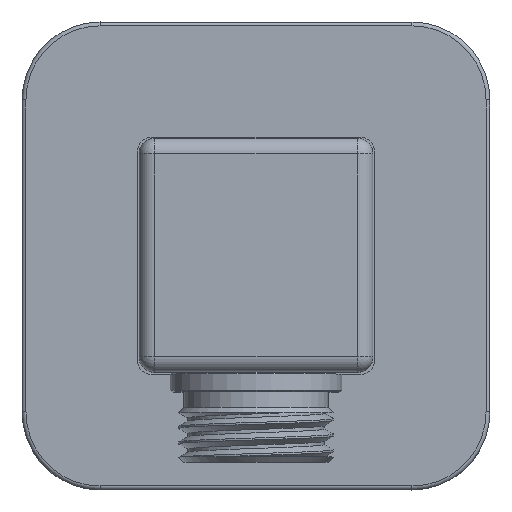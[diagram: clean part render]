
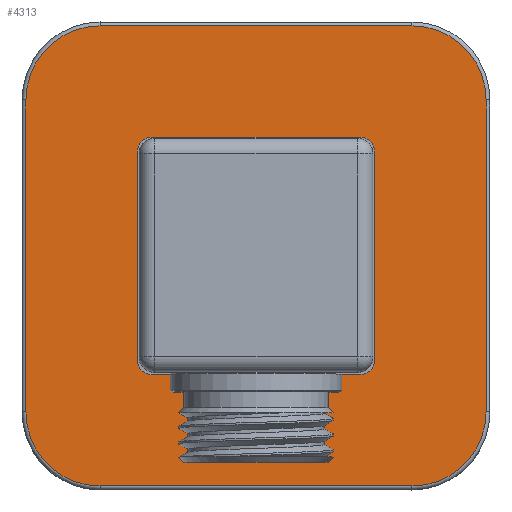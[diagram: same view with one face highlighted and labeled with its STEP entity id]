
A CAD part, top view. The second image highlights one B-rep face of the part: STEP entity #4313.
In plain terms, the highlighted planar face has unit normal (0, 0, 1).
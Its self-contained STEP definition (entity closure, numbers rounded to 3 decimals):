
#137=FACE_BOUND('',#843,.T.);
#280=CIRCLE('',#4704,9.5);
#281=CIRCLE('',#4705,9.5);
#282=CIRCLE('',#4706,9.5);
#283=CIRCLE('',#4707,9.5);
#284=CIRCLE('',#4708,2.);
#285=CIRCLE('',#4709,2.);
#286=CIRCLE('',#4710,2.);
#287=CIRCLE('',#4711,2.);
#578=FACE_OUTER_BOUND('',#842,.T.);
#842=EDGE_LOOP('',(#3281,#3282,#3283,#3284,#3285,#3286,#3287,#3288));
#843=EDGE_LOOP('',(#3289,#3290,#3291,#3292,#3293,#3294,#3295,#3296));
#1099=LINE('',#8091,#1450);
#1100=LINE('',#8095,#1451);
#1101=LINE('',#8099,#1452);
#1102=LINE('',#8103,#1453);
#1103=LINE('',#8107,#1454);
#1104=LINE('',#8111,#1455);
#1105=LINE('',#8115,#1456);
#1106=LINE('',#8119,#1457);
#1450=VECTOR('',#5506,40.);
#1451=VECTOR('',#5509,40.);
#1452=VECTOR('',#5512,40.);
#1453=VECTOR('',#5515,40.);
#1454=VECTOR('',#5518,26.5);
#1455=VECTOR('',#5521,26.5);
#1456=VECTOR('',#5524,26.5);
#1457=VECTOR('',#5527,26.5);
#1883=VERTEX_POINT('',#8089);
#1884=VERTEX_POINT('',#8090);
#1885=VERTEX_POINT('',#8092);
#1886=VERTEX_POINT('',#8094);
#1887=VERTEX_POINT('',#8096);
#1888=VERTEX_POINT('',#8098);
#1889=VERTEX_POINT('',#8100);
#1890=VERTEX_POINT('',#8102);
#1891=VERTEX_POINT('',#8105);
#1892=VERTEX_POINT('',#8106);
#1893=VERTEX_POINT('',#8108);
#1894=VERTEX_POINT('',#8110);
#1895=VERTEX_POINT('',#8112);
#1896=VERTEX_POINT('',#8114);
#1897=VERTEX_POINT('',#8116);
#1898=VERTEX_POINT('',#8118);
#2396=EDGE_CURVE('',#1883,#1884,#1099,.T.);
#2397=EDGE_CURVE('',#1884,#1885,#280,.T.);
#2398=EDGE_CURVE('',#1885,#1886,#1100,.T.);
#2399=EDGE_CURVE('',#1886,#1887,#281,.T.);
#2400=EDGE_CURVE('',#1887,#1888,#1101,.T.);
#2401=EDGE_CURVE('',#1888,#1889,#282,.T.);
#2402=EDGE_CURVE('',#1889,#1890,#1102,.T.);
#2403=EDGE_CURVE('',#1890,#1883,#283,.T.);
#2404=EDGE_CURVE('',#1891,#1892,#1103,.T.);
#2405=EDGE_CURVE('',#1891,#1893,#284,.T.);
#2406=EDGE_CURVE('',#1894,#1893,#1104,.T.);
#2407=EDGE_CURVE('',#1894,#1895,#285,.T.);
#2408=EDGE_CURVE('',#1896,#1895,#1105,.T.);
#2409=EDGE_CURVE('',#1896,#1897,#286,.T.);
#2410=EDGE_CURVE('',#1898,#1897,#1106,.T.);
#2411=EDGE_CURVE('',#1898,#1892,#287,.T.);
#3281=ORIENTED_EDGE('',*,*,#2396,.T.);
#3282=ORIENTED_EDGE('',*,*,#2397,.T.);
#3283=ORIENTED_EDGE('',*,*,#2398,.T.);
#3284=ORIENTED_EDGE('',*,*,#2399,.T.);
#3285=ORIENTED_EDGE('',*,*,#2400,.T.);
#3286=ORIENTED_EDGE('',*,*,#2401,.T.);
#3287=ORIENTED_EDGE('',*,*,#2402,.T.);
#3288=ORIENTED_EDGE('',*,*,#2403,.T.);
#3289=ORIENTED_EDGE('',*,*,#2404,.F.);
#3290=ORIENTED_EDGE('',*,*,#2405,.T.);
#3291=ORIENTED_EDGE('',*,*,#2406,.F.);
#3292=ORIENTED_EDGE('',*,*,#2407,.T.);
#3293=ORIENTED_EDGE('',*,*,#2408,.F.);
#3294=ORIENTED_EDGE('',*,*,#2409,.T.);
#3295=ORIENTED_EDGE('',*,*,#2410,.F.);
#3296=ORIENTED_EDGE('',*,*,#2411,.T.);
#4127=PLANE('',#4703);
#4313=ADVANCED_FACE('',(#578,#137),#4127,.F.);
#4703=AXIS2_PLACEMENT_3D('',#8088,#5504,#5505);
#4704=AXIS2_PLACEMENT_3D('',#8093,#5507,#5508);
#4705=AXIS2_PLACEMENT_3D('',#8097,#5510,#5511);
#4706=AXIS2_PLACEMENT_3D('',#8101,#5513,#5514);
#4707=AXIS2_PLACEMENT_3D('',#8104,#5516,#5517);
#4708=AXIS2_PLACEMENT_3D('',#8109,#5519,#5520);
#4709=AXIS2_PLACEMENT_3D('',#8113,#5522,#5523);
#4710=AXIS2_PLACEMENT_3D('',#8117,#5525,#5526);
#4711=AXIS2_PLACEMENT_3D('',#8120,#5528,#5529);
#5504=DIRECTION('center_axis',(0.,0.,-1.));
#5505=DIRECTION('ref_axis',(1.,0.,0.));
#5506=DIRECTION('',(0.,1.,0.));
#5507=DIRECTION('center_axis',(0.,0.,1.));
#5508=DIRECTION('ref_axis',(1.,0.,0.));
#5509=DIRECTION('',(-1.,0.,0.));
#5510=DIRECTION('center_axis',(0.,0.,1.));
#5511=DIRECTION('ref_axis',(0.,1.,0.));
#5512=DIRECTION('',(0.,-1.,0.));
#5513=DIRECTION('center_axis',(0.,0.,1.));
#5514=DIRECTION('ref_axis',(-1.,0.,0.));
#5515=DIRECTION('',(1.,0.,0.));
#5516=DIRECTION('center_axis',(0.,0.,1.));
#5517=DIRECTION('ref_axis',(0.,-1.,0.));
#5518=DIRECTION('',(1.,0.,0.));
#5519=DIRECTION('center_axis',(0.,0.,-1.));
#5520=DIRECTION('ref_axis',(0.,-1.,0.));
#5521=DIRECTION('',(0.,-1.,0.));
#5522=DIRECTION('center_axis',(0.,0.,-1.));
#5523=DIRECTION('ref_axis',(-1.,0.,0.));
#5524=DIRECTION('',(-1.,0.,0.));
#5525=DIRECTION('center_axis',(0.,0.,-1.));
#5526=DIRECTION('ref_axis',(0.,1.,0.));
#5527=DIRECTION('',(0.,1.,0.));
#5528=DIRECTION('center_axis',(0.,0.,-1.));
#5529=DIRECTION('ref_axis',(1.,0.,0.));
#8088=CARTESIAN_POINT('Origin',(53.85,12.925,30.176));
#8089=CARTESIAN_POINT('',(83.35,-7.075,30.176));
#8090=CARTESIAN_POINT('',(83.35,32.925,30.176));
#8091=CARTESIAN_POINT('',(83.35,-7.075,30.176));
#8092=CARTESIAN_POINT('',(73.85,42.425,30.176));
#8093=CARTESIAN_POINT('Origin',(73.85,32.925,30.176));
#8094=CARTESIAN_POINT('',(33.85,42.425,30.176));
#8095=CARTESIAN_POINT('',(73.85,42.425,30.176));
#8096=CARTESIAN_POINT('',(24.35,32.925,30.176));
#8097=CARTESIAN_POINT('Origin',(33.85,32.925,30.176));
#8098=CARTESIAN_POINT('',(24.35,-7.075,30.176));
#8099=CARTESIAN_POINT('',(24.35,32.925,30.176));
#8100=CARTESIAN_POINT('',(33.85,-16.575,30.176));
#8101=CARTESIAN_POINT('Origin',(33.85,-7.075,30.176));
#8102=CARTESIAN_POINT('',(73.85,-16.575,30.176));
#8103=CARTESIAN_POINT('',(33.85,-16.575,30.176));
#8104=CARTESIAN_POINT('Origin',(73.85,-7.075,30.176));
#8105=CARTESIAN_POINT('',(40.6,-2.325,30.176));
#8106=CARTESIAN_POINT('',(67.1,-2.325,30.176));
#8107=CARTESIAN_POINT('',(40.6,-2.325,30.176));
#8108=CARTESIAN_POINT('',(38.6,-0.325,30.176));
#8109=CARTESIAN_POINT('Origin',(40.6,-0.325,30.176));
#8110=CARTESIAN_POINT('',(38.6,26.175,30.176));
#8111=CARTESIAN_POINT('',(38.6,26.175,30.176));
#8112=CARTESIAN_POINT('',(40.6,28.175,30.176));
#8113=CARTESIAN_POINT('Origin',(40.6,26.175,30.176));
#8114=CARTESIAN_POINT('',(67.1,28.175,30.176));
#8115=CARTESIAN_POINT('',(67.1,28.175,30.176));
#8116=CARTESIAN_POINT('',(69.1,26.175,30.176));
#8117=CARTESIAN_POINT('Origin',(67.1,26.175,30.176));
#8118=CARTESIAN_POINT('',(69.1,-0.325,30.176));
#8119=CARTESIAN_POINT('',(69.1,-0.325,30.176));
#8120=CARTESIAN_POINT('Origin',(67.1,-0.325,30.176));
